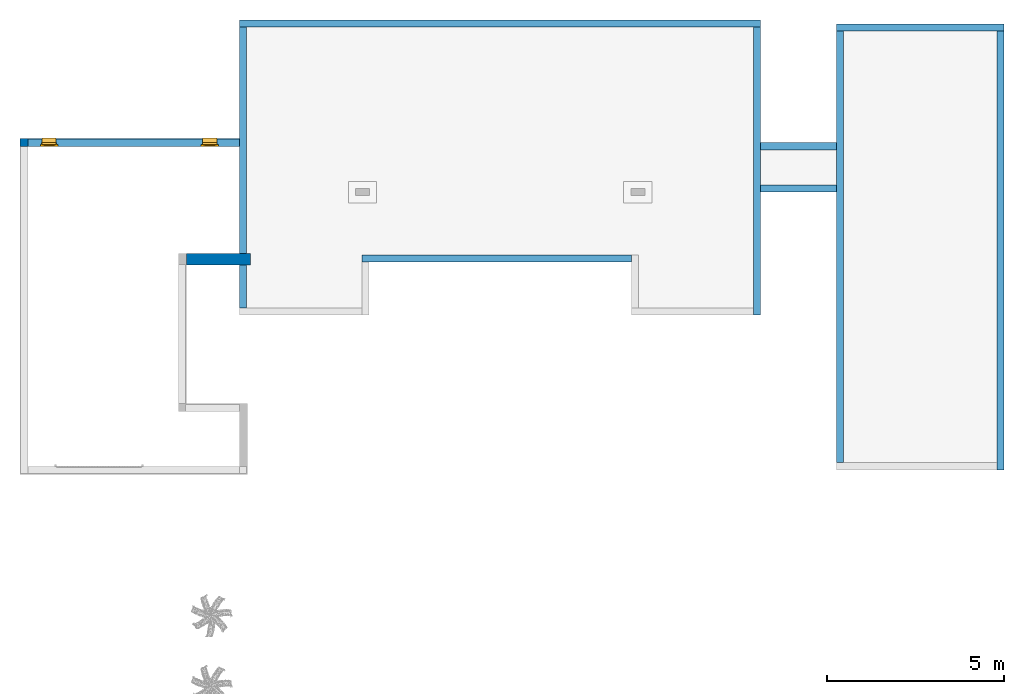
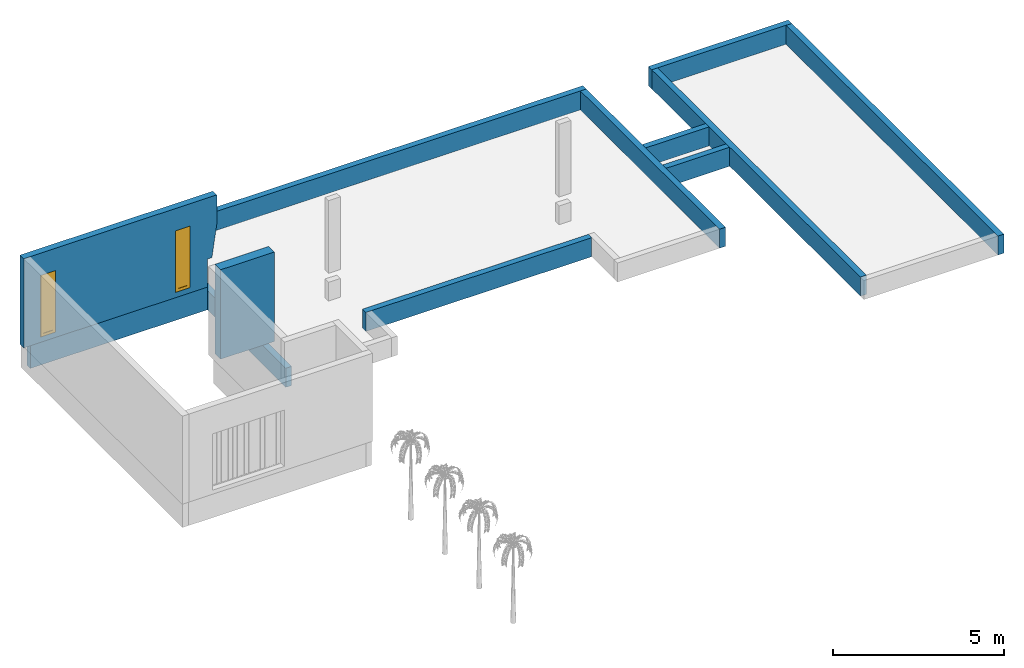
"""IFC2X3 building model written with IfcOpenShell, lengths in metres."""

from ifc_helpers import new_model, entity, si_unit, converted_unit, derived_unit, direction, frame, frame_2d, origin, place, context, subcontext, project, spatial, polyline, rectangle, outline, extrude, clip, halfspace, faceted_brep, source, transform, mapped, material, material_list, layer, layer_set, layer_usage, type_object, type_shapes, element, fill, save


model = new_model("IFC2X3")

# Units and contexts
model_context = context("Model", 3, precision=1e-05, world=origin(), true_north=direction((6.12303176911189e-17, 1.0)))
body_context = subcontext(model_context, "Body", "Model", "MODEL_VIEW")
ifc_project = project(units=[si_unit("LENGTHUNIT", "METRE"), si_unit("AREAUNIT", "SQUARE_METRE"), si_unit("VOLUMEUNIT", "CUBIC_METRE"), converted_unit("PLANEANGLEUNIT", "DEGREE", entity("IfcRatioMeasure", 0.0174532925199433), si_unit("PLANEANGLEUNIT", "RADIAN"), dimensions=[0, 0, 0, 0, 0, 0, 0]), si_unit("MASSUNIT", "GRAM", prefix="KILO"), derived_unit("MASSDENSITYUNIT", [(si_unit("MASSUNIT", "GRAM", prefix="KILO"), 1), (si_unit("LENGTHUNIT", "METRE"), -3)]), si_unit("TIMEUNIT", "SECOND"), si_unit("FREQUENCYUNIT", "HERTZ"), si_unit("THERMODYNAMICTEMPERATUREUNIT", "DEGREE_CELSIUS"), derived_unit("THERMALTRANSMITTANCEUNIT", [(si_unit("MASSUNIT", "GRAM", prefix="KILO"), 1), (si_unit("THERMODYNAMICTEMPERATUREUNIT", "KELVIN"), -1), (si_unit("TIMEUNIT", "SECOND"), -3)]), derived_unit("VOLUMETRICFLOWRATEUNIT", [(si_unit("LENGTHUNIT", "METRE"), 3), (si_unit("TIMEUNIT", "SECOND"), -1)]), si_unit("ELECTRICCURRENTUNIT", "AMPERE"), si_unit("ELECTRICVOLTAGEUNIT", "VOLT"), si_unit("POWERUNIT", "WATT"), si_unit("FORCEUNIT", "NEWTON", prefix="KILO"), si_unit("ILLUMINANCEUNIT", "LUX"), si_unit("LUMINOUSFLUXUNIT", "LUMEN"), si_unit("LUMINOUSINTENSITYUNIT", "CANDELA"), derived_unit("USERDEFINED", [(si_unit("MASSUNIT", "GRAM", prefix="KILO"), -1), (si_unit("LENGTHUNIT", "METRE"), -2), (si_unit("TIMEUNIT", "SECOND"), 3), (si_unit("LUMINOUSFLUXUNIT", "LUMEN"), 1)]), derived_unit("LINEARVELOCITYUNIT", [(si_unit("LENGTHUNIT", "METRE"), 1), (si_unit("TIMEUNIT", "SECOND"), -1)]), si_unit("PRESSUREUNIT", "PASCAL"), derived_unit("USERDEFINED", [(si_unit("LENGTHUNIT", "METRE"), -2), (si_unit("MASSUNIT", "GRAM", prefix="KILO"), 1), (si_unit("TIMEUNIT", "SECOND"), -2)])], contexts=[model_context])

# Site, building, storey
site_placement = place(None, origin())
site = spatial("IfcSite", under=ifc_project, at=site_placement, Name="Surface", CompositionType="ELEMENT")
building_placement = place(site_placement, origin())
building = spatial("IfcBuilding", under=site, at=building_placement, CompositionType="ELEMENT")
storey_1_placement = place(building_placement, frame((0.0, 0.0, -1.0)))
storey_1 = spatial("IfcBuildingStorey", under=building, at=storey_1_placement, Name="1 Mur de soubassement", CompositionType="ELEMENT", Elevation=-1.0000000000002)

# Wall
ifc_material_1 = material(Name="Maçonnerie - Enduit")
ifc_layer_1 = layer(ifc_material_1, 0.02)
ifc_material_2 = material(Name="Blocs béton manufacturés")
ifc_layer_2 = layer(ifc_material_2, 0.2)
ifc_material_3 = material(Name="vide")
ifc_layer_3 = layer(ifc_material_3, 0.01)
ifc_material_4 = material(Name="Maçonnerie - Isolant")
ifc_layer_4 = layer(ifc_material_4, 0.09)
ifc_material_5 = material(Name="Plâtre")
ifc_layer_5 = layer(ifc_material_5, 0.01)
ifc_layer_set_1 = layer_set([ifc_layer_1, ifc_layer_2, ifc_layer_3, ifc_layer_4, ifc_layer_5], Name="Mur de base:M7 Ext. Crépis 2 + BBMC 20 + Isolant 11")
ifc_layer_usage_1 = layer_usage(ifc_layer_set_1, "AXIS2", "POSITIVE", -0.165)
wall_type_1 = type_object("IfcWallType", Name="Mur de base:M7 Ext. Crépis 2 + BBMC 20 + Isolant 11", PredefinedType="STANDARD", material=ifc_layer_set_1)
wall_1_placement = place(storey_1_placement, frame((-6.4924888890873, 1.07201067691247, 0.80000000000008)))
element("IfcWallStandardCase", 1, at=wall_1_placement, inside=storey_1, type_object=wall_type_1, material=ifc_layer_usage_1, Name="Mur de base:M7 Ext. Crépis 2 + BBMC 20 + Isolant 11", ObjectType="Mur de base:M7 Ext. Crépis 2 + BBMC 20 + Isolant 11", context=body_context, shape_type="SweptSolid", body=[
    extrude(rectangle(XDim=1.82, YDim=0.33, at=frame_2d((0.91, 4.16333634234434e-17), x_axis=(-1.0, 0.0))), origin(), (0.0, 0.0, 1.0), 3.19999999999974),
])

# Wall, openings
ifc_layer_6 = layer(ifc_material_1, 0.02)
ifc_layer_7 = layer(ifc_material_2, 0.2)
ifc_layer_set_2 = layer_set([ifc_layer_6, ifc_layer_7], Name="Mur de base:Ext. Crépis 2 + BBMC 20")
ifc_layer_usage_2 = layer_usage(ifc_layer_set_2, "AXIS2", "POSITIVE", -0.11)
wall_type_2 = type_object("IfcWallType", Name="Mur de base:Ext. Crépis 2 + BBMC 20", PredefinedType="STANDARD", material=ifc_layer_set_2)
wall_2_placement = place(storey_1_placement, frame((-4.6724888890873, 4.3870106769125, 0.81065781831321), z_axis=(0.0, 0.0, 1.0), x_axis=(-1.0, 0.0, 0.0)))
wall_2 = element("IfcWallStandardCase", 2, at=wall_2_placement, inside=storey_1, type_object=wall_type_2, material=ifc_layer_usage_2, Name="Mur de base:Ext. Crépis 2 + BBMC 20", ObjectType="Mur de base:Ext. Crépis 2 + BBMC 20", context=body_context, shape_type="Clipping", body=[
    clip(extrude(rectangle(XDim=6.53, YDim=0.22, at=frame_2d((3.265, 9.0205620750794e-17), x_axis=(-1.0, 0.0))), origin(), (0.0, 0.0, 1.0), 3.18934218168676), halfspace(frame((0.310000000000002, 0.0, 0.0), z_axis=(-0.989650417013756, 0.0, -0.143499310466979), x_axis=(0.0, -1.0, 0.0)), False)),
])
opening_1_placement = place(wall_2_placement, origin())
element("IfcOpeningElement", 3, at=opening_1_placement, cuts=wall_2, Name="Mur de base:Ext. Crépis 2 + BBMC 20", ObjectType="Opening", context=body_context, shape_type="SweptSolid", body=[
    extrude(outline(polyline([(-0.666666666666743, -0.0483333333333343), (0.333333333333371, -0.0483333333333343), (0.333333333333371, 0.0966666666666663), (-0.666666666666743, -0.0483333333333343)])), frame((0.261666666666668, 0.11, 0.666666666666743), z_axis=(0.0, -1.0, 0.0), x_axis=(0.0, 0.0, 1.0)), (0.0, 0.0, 1.0), 0.22),
])
opening_2_placement = place(wall_2_placement, frame((5.955, 0.499999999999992, 0.118636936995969), z_axis=(0.0, 0.0, 1.0), x_axis=(-1.0, 0.0, 0.0)))
opening_2 = element("IfcOpeningElement", 4, at=opening_2_placement, cuts=wall_2, Name="Mur de base:Ext. Crépis 2 + BBMC 20", ObjectType="Opening", context=body_context, shape_type="Brep", body=[
    faceted_brep([(0.0500000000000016, 0.469999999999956, 0.0707052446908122), (0.0500000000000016, 0.490000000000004, 0.0707052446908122), (0.0500000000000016, 0.490000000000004, 2.22070524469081), (0.0500000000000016, 1.0, 2.22070524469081), (0.0500000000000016, 1.0, 0.0), (0.0500000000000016, 0.469999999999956, 0.0557052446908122), (0.45, 0.0, 0.0707052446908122), (0.450000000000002, 0.390000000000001, 0.0707052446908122), (0.450000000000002, 0.390000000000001, 2.22070524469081), (0.45, 0.0, 2.22070524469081), (0.0499999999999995, 0.0, 0.0707052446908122), (0.0500000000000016, 0.390000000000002, 0.0707052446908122), (0.0, 0.390000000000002, 0.0707052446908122), (0.0, 0.440000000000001, 0.0707052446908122), (0.0399999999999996, 0.440000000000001, 0.0707052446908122), (0.0399999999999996, 0.490000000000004, 0.0707052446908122), (0.45, 0.469999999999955, 0.0707052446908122), (0.450000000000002, 0.490000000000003, 0.0707052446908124), (0.459999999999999, 0.490000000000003, 0.0707052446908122), (0.459999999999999, 0.44, 0.0707052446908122), (0.499999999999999, 0.44, 0.0707052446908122), (0.499999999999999, 0.390000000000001, 0.0707052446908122), (0.0499999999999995, 0.0, 2.22070524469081), (0.450000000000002, 0.490000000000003, 2.22070524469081), (0.450000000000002, 1.0, 2.22070524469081), (0.450000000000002, 1.0, 0.0), (0.450000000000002, 0.469999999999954, 0.0557052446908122), (0.0, 0.390000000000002, 2.27070524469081), (0.0, 0.440000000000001, 2.27070524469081), (0.499999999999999, 0.440000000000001, 2.27070524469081), (0.459999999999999, 0.44, 2.23070524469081), (0.0399999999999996, 0.440000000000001, 2.23070524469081), (0.0399999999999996, 0.490000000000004, 2.23070524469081), (0.459999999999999, 0.490000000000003, 2.23070524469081), (0.0500000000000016, 0.390000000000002, 2.22070524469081), (0.499999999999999, 0.390000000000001, 2.27070524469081)], [[[0, 1, 2, 3, 4, 5]], [[6, 7, 8, 9]], [[10, 11, 12, 13, 14, 15, 1, 0, 16, 17, 18, 19, 20, 21, 7, 6]], [[10, 6, 9, 22]], [[3, 2, 23, 24]], [[3, 24, 25, 4]], [[4, 25, 26, 5]], [[5, 26, 16, 0]], [[12, 27, 28, 13]], [[13, 28, 29, 20, 19, 30, 31, 14]], [[14, 31, 32, 15]], [[15, 32, 33, 18, 17, 23, 2, 1]], [[11, 34, 8, 7, 21, 35, 27, 12]], [[27, 35, 29, 28]], [[30, 33, 32, 31]], [[29, 35, 21, 20]], [[19, 18, 33, 30]], [[9, 8, 34, 22]], [[24, 23, 17, 16, 26, 25]], [[22, 34, 11, 10]]]),
])
opening_3_placement = place(wall_2_placement, frame((1.405, 0.499999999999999, 0.118636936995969), z_axis=(0.0, 0.0, 1.0), x_axis=(-1.0, 0.0, 0.0)))
opening_3 = element("IfcOpeningElement", 5, at=opening_3_placement, cuts=wall_2, Name="Mur de base:Ext. Crépis 2 + BBMC 20", ObjectType="Opening", context=body_context, shape_type="Brep", body=[
    faceted_brep([(0.0499999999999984, 0.469999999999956, 0.0707052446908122), (0.0499999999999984, 0.490000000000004, 0.0707052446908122), (0.0499999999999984, 0.490000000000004, 2.22070524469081), (0.0500000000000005, 1.0, 2.22070524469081), (0.0500000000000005, 1.0, 0.0), (0.0499999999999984, 0.469999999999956, 0.0557052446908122), (0.449999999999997, 0.0, 0.0707052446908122), (0.449999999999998, 0.390000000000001, 0.0707052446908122), (0.449999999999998, 0.390000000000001, 2.22070524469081), (0.449999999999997, 0.0, 2.22070524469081), (0.0499999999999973, 0.0, 0.0707052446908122), (0.0499999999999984, 0.390000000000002, 0.0707052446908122), (0.0, 0.390000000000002, 0.0707052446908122), (0.0, 0.440000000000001, 0.0707052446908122), (0.0399999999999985, 0.440000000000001, 0.0707052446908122), (0.0399999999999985, 0.490000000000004, 0.0707052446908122), (0.449999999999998, 0.469999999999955, 0.0707052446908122), (0.449999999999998, 0.490000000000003, 0.0707052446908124), (0.459999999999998, 0.490000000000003, 0.0707052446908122), (0.459999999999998, 0.44, 0.0707052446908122), (0.499999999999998, 0.44, 0.0707052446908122), (0.499999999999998, 0.390000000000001, 0.0707052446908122), (0.0499999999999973, 0.0, 2.22070524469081), (0.45, 0.490000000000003, 2.22070524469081), (0.450000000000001, 1.0, 2.22070524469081), (0.450000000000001, 1.0, 0.0), (0.449999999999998, 0.469999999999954, 0.0557052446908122), (0.0, 0.390000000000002, 2.27070524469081), (0.0, 0.440000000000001, 2.27070524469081), (0.499999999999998, 0.440000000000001, 2.27070524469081), (0.459999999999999, 0.44, 2.23070524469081), (0.0399999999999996, 0.440000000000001, 2.23070524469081), (0.0399999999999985, 0.490000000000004, 2.23070524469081), (0.459999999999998, 0.490000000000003, 2.23070524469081), (0.0499999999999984, 0.390000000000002, 2.22070524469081), (0.499999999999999, 0.390000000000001, 2.27070524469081)], [[[0, 1, 2, 3, 4, 5]], [[6, 7, 8, 9]], [[10, 11, 12, 13, 14, 15, 1, 0, 16, 17, 18, 19, 20, 21, 7, 6]], [[10, 6, 9, 22]], [[3, 2, 23, 24]], [[3, 24, 25, 4]], [[4, 25, 26, 5]], [[5, 26, 16, 0]], [[12, 27, 28, 13]], [[13, 28, 29, 20, 19, 30, 31, 14]], [[14, 31, 32, 15]], [[15, 32, 33, 18, 17, 23, 2, 1]], [[11, 34, 8, 7, 21, 35, 27, 12]], [[27, 35, 29, 28]], [[30, 33, 32, 31]], [[29, 35, 21, 20]], [[19, 18, 33, 30]], [[9, 8, 34, 22]], [[24, 23, 17, 16, 26, 25]], [[22, 34, 11, 10]]]),
])

# Storey
storey_2_placement = place(building_placement, origin())
storey_2 = spatial("IfcBuildingStorey", under=building, at=storey_2_placement, Name="RDC", CompositionType="ELEMENT", Elevation=-1.0941605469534e-13)

# Window
ifc_material_6 = material(Name="Fenêtre - Appui")
ifc_material_7 = material(Name="Fenêtre - Vitrage")
ifc_material_8 = material(Name="Fenêtre - Cadre")
ifc_material_list_1 = material_list([ifc_material_6, ifc_material_7, ifc_material_8])
ifc_material_list_2 = material_list([ifc_material_6, ifc_material_7, ifc_material_8])
window_style = type_object("IfcWindowStyle", Name="0.40m x2.15m", ConstructionType="NOTDEFINED", OperationType="SINGLE_PANEL", ParameterTakesPrecedence=False, Sizeable=False, material=ifc_material_list_2)
shared_shape = source(origin(), body_context, "Body", "Brep", [
    faceted_brep([(0.45, 0.625000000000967, 0.0446692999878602), (0.45, 0.475000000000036, 0.0604349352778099), (0.45, 0.475000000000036, 0.0707052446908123), (0.45, 0.470000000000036, 0.0707052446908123), (0.45, 0.470000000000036, 0.0557052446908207), (0.45, 0.620000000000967, 0.039939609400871), (0.45, 0.620000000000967, 0.0296391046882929), (0.45, 0.625000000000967, 0.0291135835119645), (0.0499999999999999, 0.625000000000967, 0.0446692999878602), (0.0499999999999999, 0.625000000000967, 0.0291135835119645), (0.0499999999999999, 0.620000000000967, 0.0296391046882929), (0.0499999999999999, 0.620000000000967, 0.039939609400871), (0.0499999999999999, 0.470000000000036, 0.0557052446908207), (0.0499999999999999, 0.470000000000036, 0.0707052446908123), (0.0499999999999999, 0.475000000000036, 0.0707052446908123), (0.0499999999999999, 0.475000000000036, 0.0604349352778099)], [[[0, 1, 2, 3, 4, 5, 6, 7]], [[8, 9, 10, 11, 12, 13, 14, 15]], [[1, 0, 8, 15]], [[2, 1, 15, 14]], [[3, 2, 14, 13]], [[4, 3, 13, 12]], [[5, 4, 12, 11]], [[6, 5, 11, 10]], [[7, 6, 10, 9]], [[0, 7, 9, 8]]]),
    faceted_brep([(0.0500000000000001, 0.625000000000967, 0.0460952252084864), (0.0500000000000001, 0.625000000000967, 0.0446692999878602), (0.0499999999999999, 0.475000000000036, 0.0604349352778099), (0.0499999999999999, 0.475000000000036, 0.0654624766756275), (0.0500000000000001, 0.621418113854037, 0.0500733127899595), (0.0500000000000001, 0.623972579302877, 0.0487717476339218), (0.0549999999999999, 0.475000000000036, 0.0654624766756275), (0.0549999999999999, 0.475000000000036, 0.0604349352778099), (0.0550000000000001, 0.625000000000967, 0.0446692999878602), (0.0550000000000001, 0.625000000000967, 0.0460952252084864), (0.0550000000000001, 0.623972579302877, 0.0487717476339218), (0.0550000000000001, 0.621418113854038, 0.0500733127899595)], [[[0, 1, 2, 3, 4, 5]], [[6, 7, 8, 9, 10, 11]], [[2, 1, 8, 7]], [[3, 2, 7, 6]], [[4, 3, 6, 11]], [[4, 11, 10, 5]], [[10, 9, 0, 5]], [[1, 0, 9, 8]]]),
    faceted_brep([(0.445, 0.625000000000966, 0.0460952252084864), (0.445, 0.625000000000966, 0.0446692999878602), (0.445, 0.475000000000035, 0.0604349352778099), (0.445, 0.475000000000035, 0.0654624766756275), (0.445, 0.621418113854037, 0.0500733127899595), (0.445, 0.623972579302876, 0.0487717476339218), (0.45, 0.475000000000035, 0.0654624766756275), (0.45, 0.475000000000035, 0.0604349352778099), (0.45, 0.625000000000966, 0.0446692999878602), (0.45, 0.625000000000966, 0.0460952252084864), (0.45, 0.623972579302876, 0.0487717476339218), (0.45, 0.621418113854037, 0.0500733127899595)], [[[0, 1, 2, 3, 4, 5]], [[6, 7, 8, 9, 10, 11]], [[2, 1, 8, 7]], [[3, 2, 7, 6]], [[4, 3, 6, 11]], [[4, 11, 10, 5]], [[10, 9, 0, 5]], [[1, 0, 9, 8]]]),
    faceted_brep([(0.0999999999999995, 0.415999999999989, 0.170705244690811), (0.0999999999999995, 0.415999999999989, 2.17070524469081), (0.400000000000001, 0.415999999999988, 2.17070524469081), (0.400000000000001, 0.415999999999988, 0.170705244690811), (0.0999999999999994, 0.403999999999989, 0.170705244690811), (0.0999999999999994, 0.403999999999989, 2.17070524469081), (0.400000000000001, 0.403999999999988, 2.17070524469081), (0.400000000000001, 0.403999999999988, 0.170705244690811)], [[[0, 1, 2, 3]], [[1, 0, 4, 5]], [[3, 2, 6, 7]], [[0, 3, 7, 4]], [[4, 7, 6, 5]], [[2, 1, 5, 6]]]),
    faceted_brep([(0.0999999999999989, 0.429999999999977, 2.17070524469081), (0.0999999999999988, 0.38999999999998, 2.17070524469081), (0.0999999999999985, 0.38999999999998, 0.170705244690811), (0.0999999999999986, 0.429999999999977, 0.170705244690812), (0.4, 0.389999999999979, 0.170705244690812), (0.4, 0.429999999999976, 0.170705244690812), (0.4, 0.389999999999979, 2.17070524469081), (0.45, 0.389999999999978, 0.120705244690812), (0.45, 0.389999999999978, 2.22070524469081), (0.0499999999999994, 0.38999999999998, 2.22070524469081), (0.049999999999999, 0.38999999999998, 0.120705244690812), (0.4, 0.429999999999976, 2.17070524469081), (0.0500000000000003, 0.429999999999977, 0.120705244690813), (0.0500000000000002, 0.429999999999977, 2.22070524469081), (0.449999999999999, 0.429999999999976, 2.22070524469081), (0.45, 0.429999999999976, 0.120705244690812)], [[[0, 1, 2, 3]], [[3, 2, 4, 5]], [[2, 1, 6, 4], [7, 8, 9, 10]], [[5, 4, 6, 11]], [[5, 11, 0, 3], [12, 13, 14, 15]], [[9, 13, 12, 10]], [[10, 12, 15, 7]], [[7, 15, 14, 8]], [[11, 6, 1, 0]], [[8, 14, 13, 9]]], outer=[[True], [True], [False, True], [True], [False, True], [True], [True], [True], [True], [True]]),
    faceted_brep([(0.0, 0.39, 0.0707052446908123), (0.0, 0.44, 0.0707052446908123), (0.0499999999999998, 0.44, 0.0707052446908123), (0.0499999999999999, 0.489999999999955, 0.0707052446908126), (0.45, 0.489999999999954, 0.0707052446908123), (0.45, 0.44, 0.0707052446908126), (0.499999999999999, 0.44, 0.0707052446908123), (0.499999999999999, 0.39, 0.0707052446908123), (0.0, 0.39, 2.27070524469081), (0.0, 0.44, 2.27070524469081), (0.499999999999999, 0.44, 2.27070524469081), (0.45, 0.44, 0.110081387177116), (0.0499999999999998, 0.44, 0.110081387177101), (0.0649999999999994, 0.44, 2.20570524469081), (0.0649999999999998, 0.44, 0.135705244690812), (0.435, 0.44, 0.135705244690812), (0.435, 0.44, 2.20570524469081), (0.0499999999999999, 0.499999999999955, 0.094004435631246), (0.0499999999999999, 0.499999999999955, 0.065705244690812), (0.0499999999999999, 0.489999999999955, 0.065705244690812), (0.45, 0.489999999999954, 0.065705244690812), (0.45, 0.499999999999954, 0.065705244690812), (0.45, 0.499999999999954, 0.094004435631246), (0.499999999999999, 0.39, 2.27070524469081), (0.45, 0.39, 2.22070524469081), (0.45, 0.39, 0.120705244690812), (0.0499999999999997, 0.390000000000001, 0.120705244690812), (0.0499999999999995, 0.39, 2.22070524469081), (0.0649999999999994, 0.43, 2.20570524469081), (0.0649999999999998, 0.43, 0.135705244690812), (0.435, 0.43, 0.135705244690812), (0.435, 0.43, 2.20570524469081), (0.45, 0.43, 2.22070524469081), (0.0499999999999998, 0.43, 2.22070524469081), (0.0499999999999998, 0.43, 0.120705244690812), (0.45, 0.43, 0.120705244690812)], [[[0, 1, 2, 3, 4, 5, 6, 7]], [[1, 0, 8, 9]], [[1, 9, 10, 6, 5, 11, 12, 2], [13, 14, 15, 16]], [[12, 17, 18, 19, 3, 2]], [[3, 19, 20, 4]], [[4, 20, 21, 22, 11, 5]], [[6, 10, 23, 7]], [[0, 7, 23, 8], [24, 25, 26, 27]], [[13, 28, 29, 14]], [[29, 30, 15, 14]], [[31, 16, 15, 30]], [[17, 12, 11, 22]], [[28, 31, 30, 29], [32, 33, 34, 35]], [[34, 33, 27, 26]], [[26, 25, 35, 34]], [[24, 32, 35, 25]], [[18, 17, 22, 21]], [[19, 18, 21, 20]], [[13, 16, 31, 28]], [[10, 9, 8, 23]], [[33, 32, 24, 27]]], outer=[[True], [True], [True, False], [True], [True], [True], [True], [True, False], [True], [True], [True], [True], [False, True], [True], [True], [True], [True], [True], [True], [True], [True]]),
    faceted_brep([(0.0499999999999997, 0.490000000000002, 0.0707052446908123), (0.0499999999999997, 0.439999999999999, 0.0707052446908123), (0.0399999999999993, 0.439999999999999, 0.0707052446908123), (0.0399999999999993, 0.490000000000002, 0.0707052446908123), (0.0499999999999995, 0.490000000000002, 2.22070524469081), (0.0499999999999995, 0.439999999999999, 2.22070524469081), (0.45, 0.439999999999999, 2.22070524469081), (0.45, 0.439999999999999, 0.0707052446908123), (0.46, 0.439999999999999, 0.0707052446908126), (0.46, 0.439999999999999, 2.23070524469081), (0.0399999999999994, 0.439999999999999, 2.23070524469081), (0.0399999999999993, 0.490000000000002, 2.23070524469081), (0.46, 0.490000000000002, 2.23070524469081), (0.46, 0.490000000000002, 0.0707052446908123), (0.45, 0.490000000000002, 0.0707052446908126), (0.45, 0.490000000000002, 2.22070524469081)], [[[0, 1, 2, 3]], [[1, 0, 4, 5]], [[2, 1, 5, 6, 7, 8, 9, 10]], [[3, 2, 10, 11]], [[0, 3, 11, 12, 13, 14, 15, 4]], [[6, 15, 14, 7]], [[14, 13, 8, 7]], [[12, 9, 8, 13]], [[5, 4, 15, 6]], [[11, 10, 9, 12]]]),
])
type_shapes(window_style, [shared_shape])
window_1_placement = place(opening_2_placement, origin())
window_1 = element("IfcWindow", 6, at=window_1_placement, inside=storey_2, type_object=window_style, material=ifc_material_list_1, Name="1 Vantail - Droit:0.40m x2.15m", ObjectType="0.40m x2.15m", OverallHeight=2.28, OverallWidth=0.5, context=body_context, shape_type="MappedRepresentation", body=[
    mapped(shared_shape, transform((0.0, 0.0, 0.0), scale=1.0)),
])

fill(opening_2, window_1)

ifc_material_list_3 = material_list([ifc_material_6, ifc_material_7, ifc_material_8])
window_2_placement = place(opening_3_placement, origin())
window_2 = element("IfcWindow", 7, at=window_2_placement, inside=storey_2, type_object=window_style, material=ifc_material_list_3, Name="1 Vantail - Droit:0.40m x2.15m", ObjectType="0.40m x2.15m", OverallHeight=2.28, OverallWidth=0.5, context=body_context, shape_type="MappedRepresentation", body=[
    mapped(shared_shape, transform((0.0, 0.0, 0.0), scale=1.0)),
])

fill(opening_3, window_2)

# Walls
ifc_layer_8 = layer(ifc_material_2, 0.2)
ifc_layer_set_3 = layer_set([ifc_layer_8], Name="Mur de base:Mur soubassement BB 20")
ifc_layer_usage_3 = layer_usage(ifc_layer_set_3, "AXIS2", "NEGATIVE", 0.1)
wall_type_3 = type_object("IfcWallType", Name="Mur de base:Mur soubassement BB 20", PredefinedType="STANDARD", material=ifc_layer_set_3)
wall_3_placement = place(storey_1_placement, frame((-4.98248888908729, 7.75313204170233, 0.0)))
element("IfcWallStandardCase", 8, at=wall_3_placement, inside=storey_1, type_object=wall_type_3, material=ifc_layer_usage_3, Name="Mur de base:Mur soubassement BB 20", ObjectType="Mur de base:Mur soubassement BB 20", context=body_context, shape_type="SweptSolid", body=[
    extrude(rectangle(XDim=14.76, YDim=0.2, at=frame_2d((7.38, -6.93889390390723e-17), x_axis=(-1.0, 0.0))), origin(), (0.0, 0.0, 1.0), 0.680000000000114),
])
ifc_layer_usage_4 = layer_usage(ifc_layer_set_3, "AXIS2", "NEGATIVE", 0.1)
wall_4_placement = place(storey_1_placement, frame((9.67751111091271, 7.65313204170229, 0.0), z_axis=(0.0, 0.0, 1.0), x_axis=(0.0, -1.0, 0.0)))
element("IfcWallStandardCase", 9, at=wall_4_placement, inside=storey_1, type_object=wall_type_3, material=ifc_layer_usage_4, Name="Mur de base:Mur soubassement BB 20", ObjectType="Mur de base:Mur soubassement BB 20", context=body_context, shape_type="SweptSolid", body=[
    extrude(rectangle(XDim=8.15612136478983, YDim=0.2, at=frame_2d((4.07806068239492, -1.87350135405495e-16), x_axis=(-1.0, 0.0))), origin(), (0.0, 0.0, 1.0), 0.680000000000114),
])
ifc_layer_usage_5 = layer_usage(ifc_layer_set_3, "AXIS2", "NEGATIVE", 0.1)
wall_5_placement = place(storey_1_placement, frame((6.1175111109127, 1.09701067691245, 0.0), z_axis=(0.0, 0.0, 1.0), x_axis=(-1.0, 0.0, 0.0)))
element("IfcWallStandardCase", 10, at=wall_5_placement, inside=storey_1, type_object=wall_type_3, material=ifc_layer_usage_5, Name="Mur de base:Mur soubassement BB 20", ObjectType="Mur de base:Mur soubassement BB 20", context=body_context, shape_type="SweptSolid", body=[
    extrude(rectangle(XDim=7.64, YDim=0.2, at=frame_2d((3.82, 3.46944695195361e-17), x_axis=(-1.0, 0.0))), origin(), (0.0, 0.0, 1.0), 0.680000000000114),
])
ifc_layer_usage_6 = layer_usage(ifc_layer_set_3, "AXIS2", "NEGATIVE", 0.1)
wall_6_placement = place(storey_1_placement, frame((-4.88248888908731, -0.302989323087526, 0.0), z_axis=(0.0, 0.0, 1.0), x_axis=(0.0, 1.0, 0.0)))
element("IfcWallStandardCase", 11, at=wall_6_placement, inside=storey_1, type_object=wall_type_3, material=ifc_layer_usage_6, Name="Mur de base:Mur soubassement BB 20", ObjectType="Mur de base:Mur soubassement BB 20", context=body_context, shape_type="SweptSolid", body=[
    extrude(rectangle(XDim=7.95612136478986, YDim=0.199999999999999, at=frame_2d((3.97806068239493, -6.24500451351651e-16), x_axis=(-1.0, 0.0))), origin(), (0.0, 0.0, 1.0), 0.680000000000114),
])
ifc_layer_usage_7 = layer_usage(ifc_layer_set_3, "AXIS2", "NEGATIVE", 0.1)
wall_7_placement = place(storey_1_placement, frame((9.7775111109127, 4.27701067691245, 0.0)))
element("IfcWallStandardCase", 12, at=wall_7_placement, inside=storey_1, type_object=wall_type_3, material=ifc_layer_usage_7, Name="Mur de base:Mur soubassement BB 20", ObjectType="Mur de base:Mur soubassement BB 20", context=body_context, shape_type="SweptSolid", body=[
    extrude(rectangle(XDim=2.15092641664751, YDim=0.2, at=frame_2d((1.07546320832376, -4.16333634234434e-17), x_axis=(-1.0, 0.0))), origin(), (0.0, 0.0, 1.0), 0.680000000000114),
])
ifc_layer_usage_8 = layer_usage(ifc_layer_set_3, "AXIS2", "POSITIVE", -0.1)
wall_8_placement = place(storey_1_placement, frame((9.7775111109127, 3.07701067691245, 0.0)))
element("IfcWallStandardCase", 13, at=wall_8_placement, inside=storey_1, type_object=wall_type_3, material=ifc_layer_usage_8, Name="Mur de base:Mur soubassement BB 20", ObjectType="Mur de base:Mur soubassement BB 20", context=body_context, shape_type="SweptSolid", body=[
    extrude(rectangle(XDim=2.15092641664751, YDim=0.2, at=frame_2d((1.07546320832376, 0.0), x_axis=(-1.0, 0.0))), origin(), (0.0, 0.0, 1.0), 0.680000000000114),
])
ifc_layer_usage_9 = layer_usage(ifc_layer_set_3, "AXIS2", "NEGATIVE", 0.1)
wall_9_placement = place(storey_1_placement, frame((11.9284375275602, 7.64438495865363, 0.0)))
element("IfcWallStandardCase", 14, at=wall_9_placement, inside=storey_1, type_object=wall_type_3, material=ifc_layer_usage_9, Name="Mur de base:Mur soubassement BB 20", ObjectType="Mur de base:Mur soubassement BB 20", context=body_context, shape_type="SweptSolid", body=[
    extrude(rectangle(XDim=4.7390735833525, YDim=0.2, at=frame_2d((2.36953679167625, 0.0), x_axis=(-1.0, 0.0))), origin(), (0.0, 0.0, 1.0), 0.680000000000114),
])
ifc_layer_usage_10 = layer_usage(ifc_layer_set_3, "AXIS2", "NEGATIVE", 0.1)
wall_10_placement = place(storey_1_placement, frame((16.5675111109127, 7.54438495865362, 0.0), z_axis=(0.0, 0.0, 1.0), x_axis=(0.0, -1.0, 0.0)))
element("IfcWallStandardCase", 15, at=wall_10_placement, inside=storey_1, type_object=wall_type_3, material=ifc_layer_usage_10, Name="Mur de base:Mur soubassement BB 20", ObjectType="Mur de base:Mur soubassement BB 20", context=body_context, shape_type="SweptSolid", body=[
    extrude(rectangle(XDim=12.43, YDim=0.200000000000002, at=frame_2d((6.215, -1.52655665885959e-16), x_axis=(-1.0, 0.0))), origin(), (0.0, 0.0, 1.0), 0.680000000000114),
])
ifc_layer_usage_11 = layer_usage(ifc_layer_set_3, "AXIS2", "POSITIVE", -0.1)
wall_11_placement = place(storey_1_placement, frame((12.0284375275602, 7.54438495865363, 0.0), z_axis=(0.0, 0.0, 1.0), x_axis=(0.0, -1.0, 0.0)))
element("IfcWallStandardCase", 16, at=wall_11_placement, inside=storey_1, type_object=wall_type_3, material=ifc_layer_usage_11, Name="Mur de base:Mur soubassement BB 20", ObjectType="Mur de base:Mur soubassement BB 20", context=body_context, shape_type="SweptSolid", body=[
    extrude(rectangle(XDim=12.23, YDim=0.199999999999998, at=frame_2d((6.115, -3.05311331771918e-16), x_axis=(-1.0, 0.0))), origin(), (0.0, 0.0, 1.0), 0.680000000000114),
])
ifc_layer_usage_12 = layer_usage(ifc_layer_set_3, "AXIS2", "POSITIVE", -0.1)
wall_12_placement = place(storey_1_placement, frame((-10.9824888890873, 4.37701067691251, 0.0)))
element("IfcWallStandardCase", 17, at=wall_12_placement, inside=storey_1, type_object=wall_type_3, material=ifc_layer_usage_12, Name="Mur de base:Mur soubassement BB 20", ObjectType="Mur de base:Mur soubassement BB 20", context=body_context, shape_type="SweptSolid", body=[
    extrude(rectangle(XDim=5.99999999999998, YDim=0.2, at=frame_2d((2.99999999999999, 0.0), x_axis=(-1.0, 0.0))), origin(), (0.0, 0.0, 1.0), 0.81065781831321),
])

save(model, "model.ifc")
